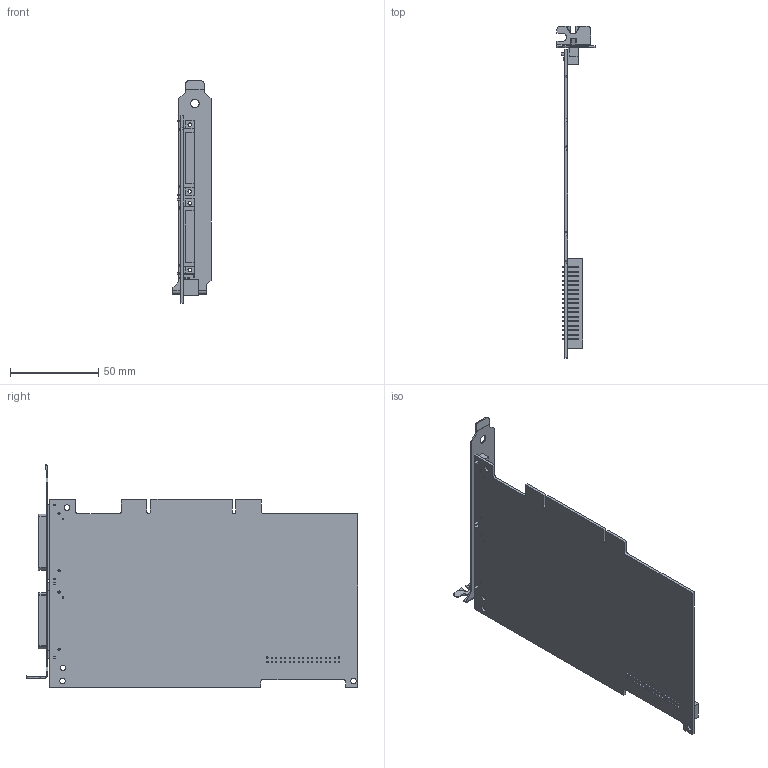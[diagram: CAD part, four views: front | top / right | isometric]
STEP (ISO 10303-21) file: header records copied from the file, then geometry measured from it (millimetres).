
FILE_DESCRIPTION((''),'2;1');
FILE_NAME('CU_PCI-7830R','2011-08-15T',('dkendric'),(''),'PRO/ENGINEER BY PARAMETRIC TECHNOLOGY CORPORATION, 2010230','PRO/ENGINEER BY PARAMETRIC TECHNOLOGY CORPORATION, 2010230','');
FILE_SCHEMA(('CONFIG_CONTROL_DESIGN'));
Length unit declared in the file: inch
Products named in the file (1): CU_PCI-7830R
Bounding box: 21.59 x 187.77 x 126.06 mm (x, y, z)
Volume: 35247.7 mm3; surface area: 46306.4 mm2
Topology: 1 solids, 1 shells, 915 faces, 2525 edges, 1629 vertices
Faces by surface type: plane 725, cylinder 178, torus 8, bspline 4
Entity records: 29339 total; most frequent: CARTESIAN_POINT 5469, ORIENTED_EDGE 5050, DIRECTION 4623, EDGE_CURVE 2525, VECTOR 2169, LINE 2169, VERTEX_POINT 1629, AXIS2_PLACEMENT_3D 1227
